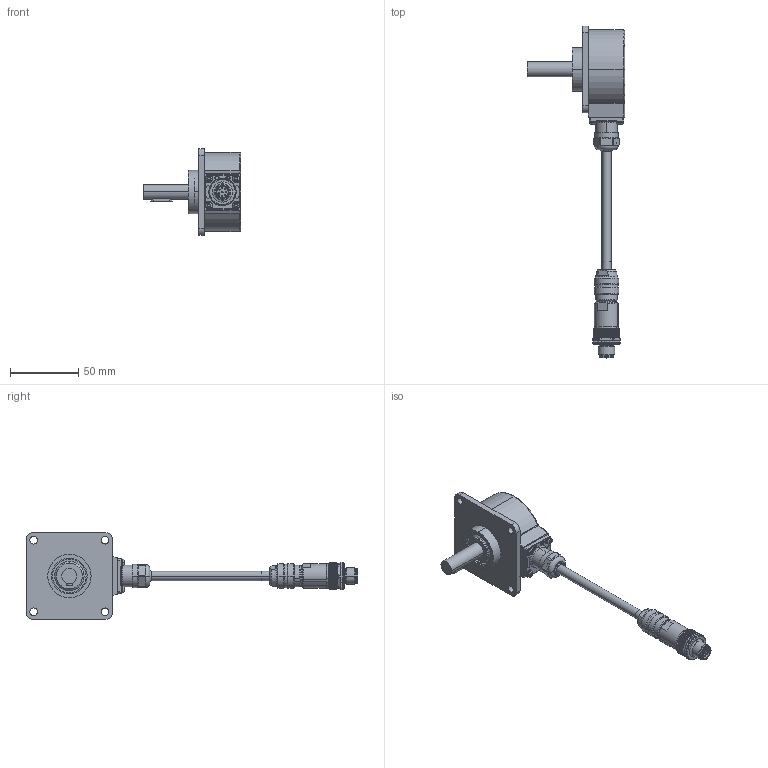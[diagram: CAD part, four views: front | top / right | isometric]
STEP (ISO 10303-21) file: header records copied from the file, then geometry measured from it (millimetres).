
FILE_DESCRIPTION (( 'STEP AP203' ), '1' );
FILE_NAME ('K58I.OXX.XXXXX.XS3Q511.6XR12.XXXX.step', '2025-12-08T15:49:13', ( '' ), ( '' ), 'SwSTEP 2.0', 'SolidWorks 2021', '' );
FILE_SCHEMA (( 'CONFIG_CONTROL_DESIGN' ));
Length unit declared in the file: millimetre
Products named in the file (1): K58I.OXX.XXXXX.XS3Q511.6XR12.XXXX
Bounding box: 71.19 x 243.24 x 63.5 mm (x, y, z)
Volume: 140396.7 mm3; surface area: 44332.1 mm2
Topology: 17 solids, 17 shells, 1435 faces, 3512 edges, 2143 vertices
Faces by surface type: cylinder 517, plane 515, cone 279, bspline 54, torus 38, sphere 32
Entity records: 45091 total; most frequent: CARTESIAN_POINT 12352, ORIENTED_EDGE 6954, DIRECTION 6748, EDGE_CURVE 3477, AXIS2_PLACEMENT_3D 2713, VERTEX_POINT 2125, EDGE_LOOP 1512, FACE_OUTER_BOUND 1435
